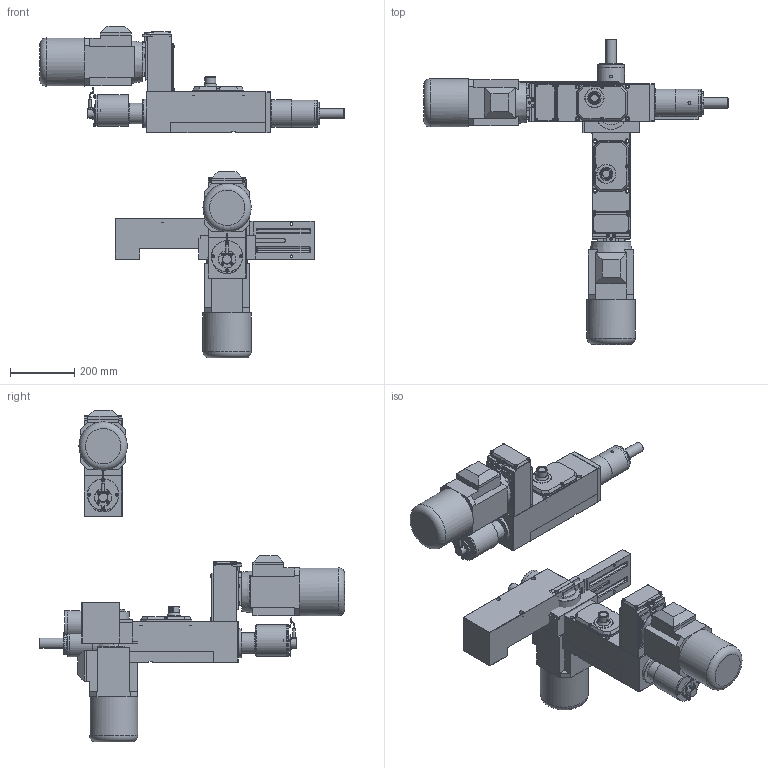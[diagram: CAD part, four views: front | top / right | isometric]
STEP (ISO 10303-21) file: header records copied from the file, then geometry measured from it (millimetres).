
FILE_DESCRIPTION( ( 'STEP AP203' ), '1' );
FILE_NAME( 'C:/Documents and Settings/Saverio/Desktop/disegni ironcad/unità serie 1/MC 112/MC 112_A05_P.stp', '2014-01-13T17:24:29', ( ' ' ), ( ' ' ), 'XStep 1.0', ' ', ' ' );
FILE_SCHEMA( ( 'CONFIG_CONTROL_DESIGN' ) );
Length unit declared in the file: metre
Products named in the file (52): Assem1; Assem2; Assem3; 1; 2; 3; 4; 5; 6; 7; 8; 9; 10; 11; 12; 13; 14; 15; 16; 17; 18; 19; 20; 21; 22; 23; 24; 25; 26; 27; 28; 29; 30; 31; 32; 33; 34; 35; 36; 37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
Bounding box: 947.2 x 949 x 1032.13 mm (x, y, z)
Volume: 40124124.9 mm3; surface area: 3330711.4 mm2
Topology: 147 solids, 147 shells, 3075 faces, 6945 edges, 4326 vertices
Faces by surface type: plane 1887, cylinder 684, cone 393, sphere 60, bspline 30, torus 21
Full cylindrical faces by diameter (mm): 4.134 x3, 4.5 x12, 5 x36, 5.5 x15, 6 x21, 6.5 x18, 6.75 x12, 6.9 x12, 7 x3, 8 x3, 8.385 x15, 8.5 x27, 9.87 x24, 13.5 x12, 18 x3, 20 x3, 23 x3, 30 x3, 32 x12, 41 x3, 52 x3, 52.5 x3, 54 x9, 54.4 x3, 60 x3, 64 x3, 70 x6, 80 x9, 84 x3, 85 x3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
Entity records: 31175 total; most frequent: CARTESIAN_POINT 6899, DIRECTION 4562, ORIENTED_EDGE 4130, EDGE_CURVE 2065, AXIS2_PLACEMENT_3D 1646, VERTEX_POINT 1412, EDGE_LOOP 1375, LINE 1270
